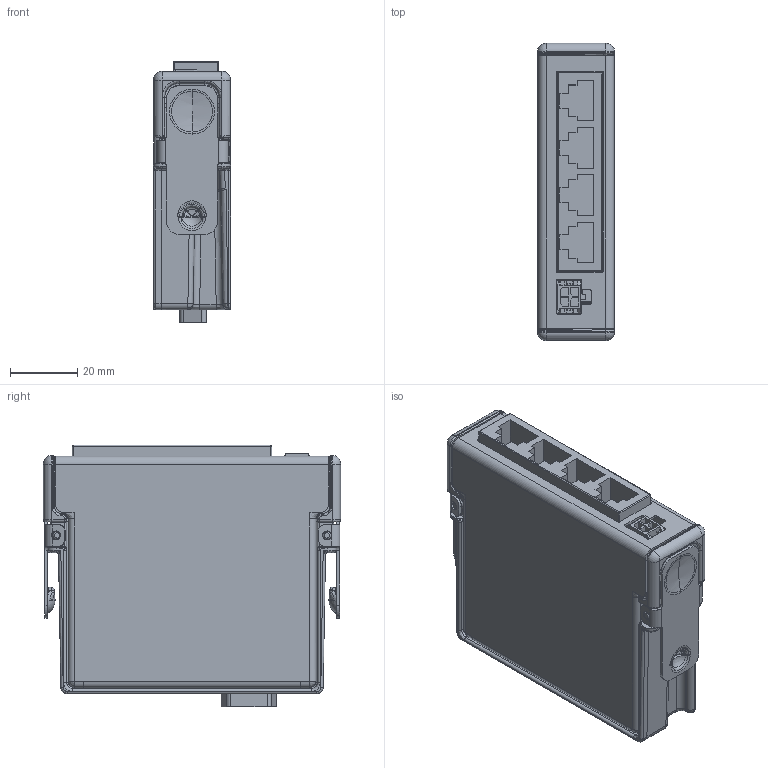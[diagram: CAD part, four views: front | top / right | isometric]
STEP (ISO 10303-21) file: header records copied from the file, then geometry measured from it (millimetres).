
FILE_DESCRIPTION((''),'2;1');
FILE_NAME('CU_NI-9237_RJ50','2012-06-01T',('dkendric'),(''),'PRO/ENGINEER BY PARAMETRIC TECHNOLOGY CORPORATION, 2010230','PRO/ENGINEER BY PARAMETRIC TECHNOLOGY CORPORATION, 2010230','');
FILE_SCHEMA(('CONFIG_CONTROL_DESIGN'));
Products named in the file (1): CU_NI-9237_RJ50
Bounding box: 22.86 x 88.11 x 77.5 mm (x, y, z)
Volume: 57129.3 mm3; surface area: 57276.3 mm2
Topology: 9 solids, 9 shells, 1875 faces, 4727 edges, 2843 vertices
Faces by surface type: plane 705, cylinder 659, bspline 365, torus 66, sphere 49, cone 25, extrusion 6
Entity records: 76453 total; most frequent: CARTESIAN_POINT 34061, ORIENTED_EDGE 9304, DIRECTION 8009, EDGE_CURVE 4652, VERTEX_POINT 2881, AXIS2_PLACEMENT_3D 2818, VECTOR 2373, LINE 2367
